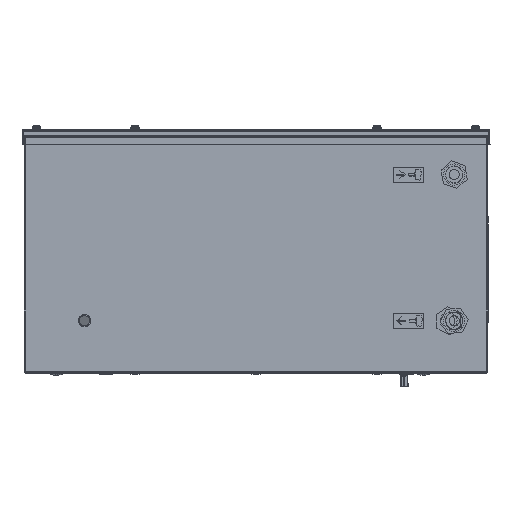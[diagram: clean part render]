
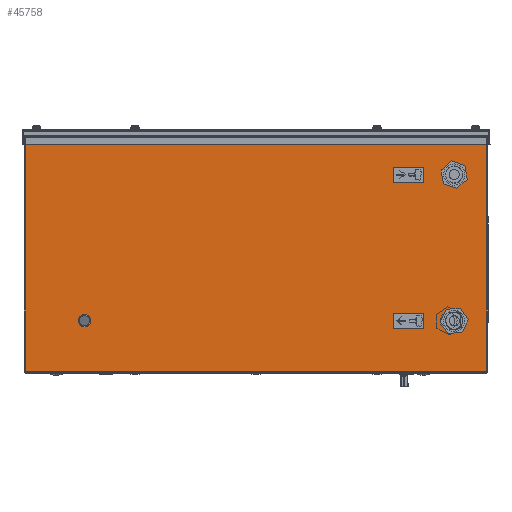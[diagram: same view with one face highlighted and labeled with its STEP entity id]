
A CAD part, front view. The second image highlights one B-rep face of the part: STEP entity #45758.
In plain terms, the highlighted planar face has unit normal (0, -1, 0).
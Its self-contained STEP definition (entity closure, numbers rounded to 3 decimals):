
#422 = DIRECTION ( 'NONE',  ( 0., 0., -1. ) ) ;
#423 = DIRECTION ( 'NONE',  ( 0., -1., 0. ) ) ;
#424 = AXIS2_PLACEMENT_3D ( 'NONE', #430, #423, #422 ) ;
#425 = CIRCLE ( 'NONE', #424, 8.5 ) ;
#430 = CARTESIAN_POINT ( 'NONE',  ( 196.5, -1., 52. ) ) ;
#19841 = EDGE_CURVE ( 'NONE', #46704, #47994, #425, .T. ) ;
#45614 = VERTEX_POINT ( 'NONE', #66364 ) ;
#45622 = VERTEX_POINT ( 'NONE', #66406 ) ;
#45624 = EDGE_CURVE ( 'NONE', #45622, #45614, #66404, .T. ) ;
#45639 = EDGE_CURVE ( 'NONE', #46596, #46605, #66423, .T. ) ;
#45640 = ORIENTED_EDGE ( 'NONE', *, *, #46597, .F. ) ;
#45641 = EDGE_LOOP ( 'NONE', ( #45642, #45727 ) ) ;
#45642 = ORIENTED_EDGE ( 'NONE', *, *, #45643, .F. ) ;
#45643 = EDGE_CURVE ( 'NONE', #46574, #46587, #66427, .T. ) ;
#45660 = VERTEX_POINT ( 'NONE', #66504 ) ;
#45727 = ORIENTED_EDGE ( 'NONE', *, *, #46575, .F. ) ;
#45728 = EDGE_LOOP ( 'NONE', ( #45730, #45733 ) ) ;
#45730 = ORIENTED_EDGE ( 'NONE', *, *, #45731, .F. ) ;
#45731 = EDGE_CURVE ( 'NONE', #47994, #46704, #66730, .T. ) ;
#45733 = ORIENTED_EDGE ( 'NONE', *, *, #19841, .F. ) ;
#45734 = EDGE_LOOP ( 'NONE', ( #45735, #45737, #45739, #45740 ) ) ;
#45735 = ORIENTED_EDGE ( 'NONE', *, *, #45754, .F. ) ;
#45737 = ORIENTED_EDGE ( 'NONE', *, *, #45738, .F. ) ;
#45738 = EDGE_CURVE ( 'NONE', #45614, #45749, #66725, .T. ) ;
#45739 = ORIENTED_EDGE ( 'NONE', *, *, #45624, .F. ) ;
#45740 = ORIENTED_EDGE ( 'NONE', *, *, #45741, .T. ) ;
#45741 = EDGE_CURVE ( 'NONE', #45622, #45660, #66721, .T. ) ;
#45749 = VERTEX_POINT ( 'NONE', #66713 ) ;
#45754 = EDGE_CURVE ( 'NONE', #45749, #45660, #66711, .T. ) ;
#45758 = ADVANCED_FACE ( 'NONE', ( #66707, #66706, #66705, #66704 ), #66751, .F. ) ;
#45762 = EDGE_LOOP ( 'NONE', ( #45763, #45640 ) ) ;
#45763 = ORIENTED_EDGE ( 'NONE', *, *, #45639, .F. ) ;
#46574 = VERTEX_POINT ( 'NONE', #68324 ) ;
#46575 = EDGE_CURVE ( 'NONE', #46587, #46574, #68322, .T. ) ;
#46587 = VERTEX_POINT ( 'NONE', #68303 ) ;
#46596 = VERTEX_POINT ( 'NONE', #68339 ) ;
#46597 = EDGE_CURVE ( 'NONE', #46605, #46596, #68336, .T. ) ;
#46605 = VERTEX_POINT ( 'NONE', #68378 ) ;
#46704 = VERTEX_POINT ( 'NONE', #68517 ) ;
#47994 = VERTEX_POINT ( 'NONE', #70577 ) ;
#66364 = CARTESIAN_POINT ( 'NONE',  ( 228.929, -1., 2. ) ) ;
#66401 = DIRECTION ( 'NONE',  ( 0., 0., -1. ) ) ;
#66402 = VECTOR ( 'NONE', #66401, 1000. ) ;
#66403 = CARTESIAN_POINT ( 'NONE',  ( 228.929, -1., 234. ) ) ;
#66404 = LINE ( 'NONE', #66403, #66402 ) ;
#66406 = CARTESIAN_POINT ( 'NONE',  ( 228.929, -1., 234. ) ) ;
#66420 = DIRECTION ( 'NONE',  ( 0., -1., 0. ) ) ;
#66421 = CARTESIAN_POINT ( 'NONE',  ( -170., -1., 52. ) ) ;
#66422 = AXIS2_PLACEMENT_3D ( 'NONE', #66421, #66420, #66429 ) ;
#66423 = CIRCLE ( 'NONE', #66422, 6.1 ) ;
#66424 = DIRECTION ( 'NONE',  ( 0., -1., 0. ) ) ;
#66425 = CARTESIAN_POINT ( 'NONE',  ( 196.5, -1., 197. ) ) ;
#66426 = AXIS2_PLACEMENT_3D ( 'NONE', #66425, #66424, #66442 ) ;
#66427 = CIRCLE ( 'NONE', #66426, 8.5 ) ;
#66429 = DIRECTION ( 'NONE',  ( 0., 0., -1. ) ) ;
#66442 = DIRECTION ( 'NONE',  ( 0., 0., -1. ) ) ;
#66504 = CARTESIAN_POINT ( 'NONE',  ( -228.929, -1., 234. ) ) ;
#66704 = FACE_OUTER_BOUND ( 'NONE', #45734, .T. ) ;
#66705 = FACE_BOUND ( 'NONE', #45728, .T. ) ;
#66706 = FACE_BOUND ( 'NONE', #45641, .T. ) ;
#66707 = FACE_BOUND ( 'NONE', #45762, .T. ) ;
#66708 = DIRECTION ( 'NONE',  ( 0., 0., 1. ) ) ;
#66709 = VECTOR ( 'NONE', #66708, 1000. ) ;
#66710 = CARTESIAN_POINT ( 'NONE',  ( -228.929, -1., 234. ) ) ;
#66711 = LINE ( 'NONE', #66710, #66709 ) ;
#66713 = CARTESIAN_POINT ( 'NONE',  ( -228.929, -1., 2. ) ) ;
#66718 = DIRECTION ( 'NONE',  ( -1., 0., 0. ) ) ;
#66719 = VECTOR ( 'NONE', #66718, 1000. ) ;
#66720 = CARTESIAN_POINT ( 'NONE',  ( 7219., -1., 234. ) ) ;
#66721 = LINE ( 'NONE', #66720, #66719 ) ;
#66722 = DIRECTION ( 'NONE',  ( -1., 0., 0. ) ) ;
#66723 = VECTOR ( 'NONE', #66722, 1000. ) ;
#66724 = CARTESIAN_POINT ( 'NONE',  ( 7219., -1., 2. ) ) ;
#66725 = LINE ( 'NONE', #66724, #66723 ) ;
#66726 = DIRECTION ( 'NONE',  ( 0., 0., -1. ) ) ;
#66727 = DIRECTION ( 'NONE',  ( 0., -1., 0. ) ) ;
#66728 = CARTESIAN_POINT ( 'NONE',  ( 196.5, -1., 52. ) ) ;
#66729 = AXIS2_PLACEMENT_3D ( 'NONE', #66728, #66727, #66726 ) ;
#66730 = CIRCLE ( 'NONE', #66729, 8.5 ) ;
#66746 = DIRECTION ( 'NONE',  ( 0., 0., -1. ) ) ;
#66747 = DIRECTION ( 'NONE',  ( 0., 1., 0. ) ) ;
#66748 = CARTESIAN_POINT ( 'NONE',  ( 7219., -1., 234. ) ) ;
#66749 = AXIS2_PLACEMENT_3D ( 'NONE', #66748, #66747, #66746 ) ;
#66751 = PLANE ( 'NONE',  #66749 ) ;
#68303 = CARTESIAN_POINT ( 'NONE',  ( 196.5, -1., 205.5 ) ) ;
#68318 = DIRECTION ( 'NONE',  ( 0., 0., -1. ) ) ;
#68319 = DIRECTION ( 'NONE',  ( 0., -1., 0. ) ) ;
#68320 = CARTESIAN_POINT ( 'NONE',  ( 196.5, -1., 197. ) ) ;
#68321 = AXIS2_PLACEMENT_3D ( 'NONE', #68320, #68319, #68318 ) ;
#68322 = CIRCLE ( 'NONE', #68321, 8.5 ) ;
#68324 = CARTESIAN_POINT ( 'NONE',  ( 196.5, -1., 188.5 ) ) ;
#68332 = DIRECTION ( 'NONE',  ( 0., 0., -1. ) ) ;
#68333 = DIRECTION ( 'NONE',  ( 0., -1., 0. ) ) ;
#68334 = CARTESIAN_POINT ( 'NONE',  ( -170., -1., 52. ) ) ;
#68335 = AXIS2_PLACEMENT_3D ( 'NONE', #68334, #68333, #68332 ) ;
#68336 = CIRCLE ( 'NONE', #68335, 6.1 ) ;
#68339 = CARTESIAN_POINT ( 'NONE',  ( -170., -1., 45.9 ) ) ;
#68378 = CARTESIAN_POINT ( 'NONE',  ( -170., -1., 58.1 ) ) ;
#68517 = CARTESIAN_POINT ( 'NONE',  ( 196.5, -1., 60.5 ) ) ;
#70577 = CARTESIAN_POINT ( 'NONE',  ( 196.5, -1., 43.5 ) ) ;
